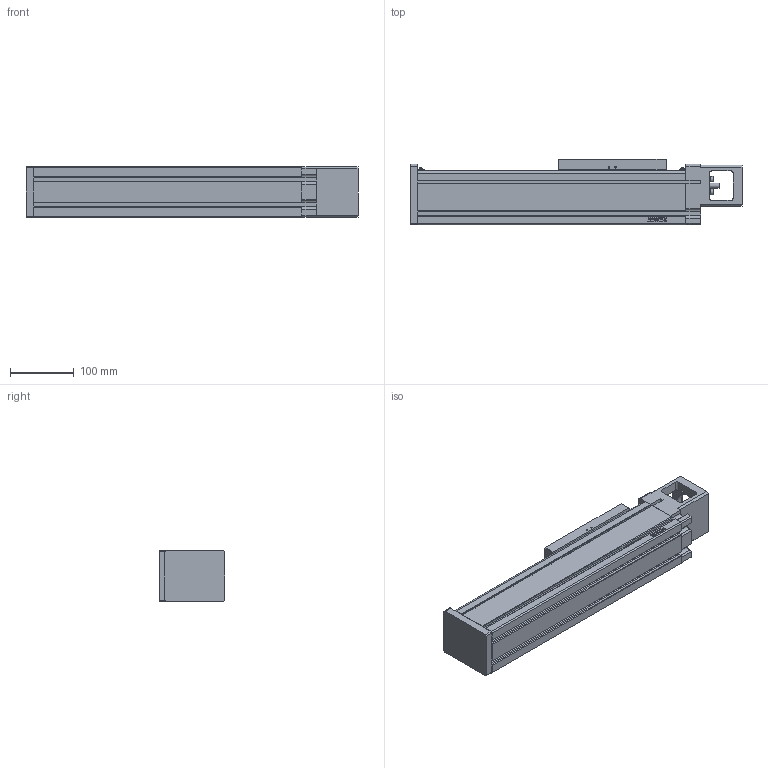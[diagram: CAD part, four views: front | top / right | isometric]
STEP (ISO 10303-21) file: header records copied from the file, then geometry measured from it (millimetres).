
FILE_DESCRIPTION(/* description */ (''),/* implementation_level */ '2;1');
FILE_NAME(/* name */ 'D:\混合母檔20191031\混和母檔\混和母檔\bin\Debug\Download\3D\KU80-10C-200AF0\KU80-10C-200AF0.stp',/* time_stamp */ '2019-11-04T17:03:08+08:00',/* author */ ('user'),/* organization */ (''),/* preprocessor_version */ 'ST-DEVELOPER v16.13',/* originating_system */ 'Autodesk Inventor 2018',/* authorisation */ '');
FILE_SCHEMA (('AUTOMOTIVE_DESIGN { 1 0 10303 214 3 1 1 }'));
Length unit declared in the file: millimetre
Products named in the file (3): KU80-10C-200AF0; KU80-F0-BP; KU80-SL
Assembly tree (2 placements, depth 2):
  KU80-10C-200AF0
    KU80-F0-BP
    KU80-SL
Bounding box: 520 x 103 x 80 mm (x, y, z)
Volume: 3265963.6 mm3; surface area: 306981.8 mm2
Topology: 2 solids, 10 shells, 862 faces, 2315 edges, 1508 vertices
Faces by surface type: plane 509, bspline 136, cylinder 104, cone 81, torus 28, sphere 4
Full cylindrical faces by diameter (mm): 2.459 x4, 2.729 x4, 3 x4, 3.242 x4, 3.5 x4, 4.134 x16, 5 x4, 5.5 x8, 5.6 x2, 8 x1, 8.5 x4, 12 x1, 46.5 x1
Entity records: 27990 total; most frequent: CARTESIAN_POINT 7413, ORIENTED_EDGE 4362, DIRECTION 3790, EDGE_CURVE 2181, VERTEX_POINT 1469, LINE 1298, VECTOR 1298, AXIS2_PLACEMENT_3D 1246
